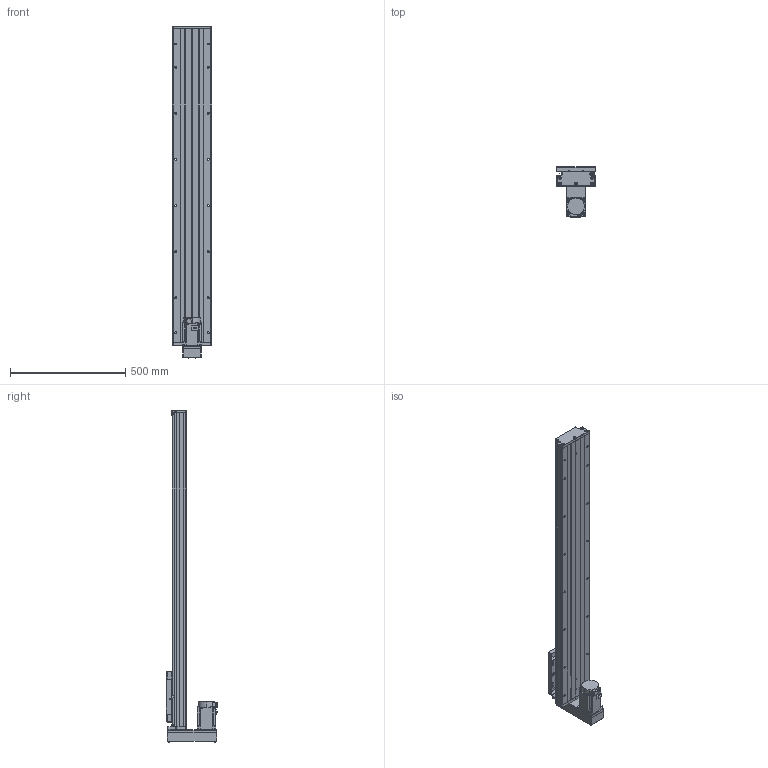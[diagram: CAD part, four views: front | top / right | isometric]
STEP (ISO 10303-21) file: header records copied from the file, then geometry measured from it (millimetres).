
FILE_DESCRIPTION (( 'STEP AP203' ), '1' );
FILE_NAME ('GTH17-1100-BM-M75-C4.step', '2023-06-30T12:38:01', ( '微软用户' ), ( '微软中国' ), 'SwSTEP 2.0', 'SolidWorks 2020', '' );
FILE_SCHEMA (( 'CONFIG_CONTROL_DESIGN' ));
Length unit declared in the file: millimetre
Products named in the file (19): GBT77-2000 M3×3; GTH17-015-2_CTHA86-015-2; GTH17-005; GBT 70.1-M6¡Á20_M6¡Á20; GTH17-033; GB1155-6X6; GTH17-031; GTH17-1100-BM-M75-C4; CTHA60-017; GBT 70.2-M3¡Á5_M3¡Á6; EE_SX911P_R; す晦芛蹟隊 M3℅5; GTH17-001_1100; CTHA60-016; HG-KN73J-S100; GTH17-002_GTH17-002; GBT 70.1-M3℅5; GBT 70.2-M4¡Á45_M4¡Á35; GTH17-004
Assembly tree (58 placements, depth 2):
  GTH17-1100-BM-M75-C4
    GTH17-001_1100
    GTH17-002_GTH17-002
    GTH17-004
    GTH17-005
    GB1155-6X6  x2
    CTHA60-017  x3
    EE_SX911P_R  x3
    CTHA60-016  x2
    GBT 70.1-M3℅5  x6
    GBT77-2000 M3×3  x6
    GBT 70.1-M6¡Á20_M6¡Á20  x10
    GTH17-031
    GBT 70.2-M3¡Á5_M3¡Á6  x8
    す晦芛蹟隊 M3℅5  x6
    HG-KN73J-S100
    GBT 70.2-M4¡Á45_M4¡Á35  x4
    GTH17-015-2_CTHA86-015-2
    GTH17-033
Bounding box: 171 x 222.3 x 1438.2 mm (x, y, z)
Volume: 11658425.2 mm3; surface area: 1544236.9 mm2
Topology: 61 solids, 61 shells, 2469 faces, 5893 edges, 3651 vertices
Faces by surface type: plane 1314, cylinder 682, cone 297, torus 124, sphere 32, bspline 20
Entity records: 45354 total; most frequent: CARTESIAN_POINT 10466, DIRECTION 6601, ORIENTED_EDGE 6498, EDGE_CURVE 3249, AXIS2_PLACEMENT_3D 2264, LINE 2073, VECTOR 2073, VERTEX_POINT 2063
